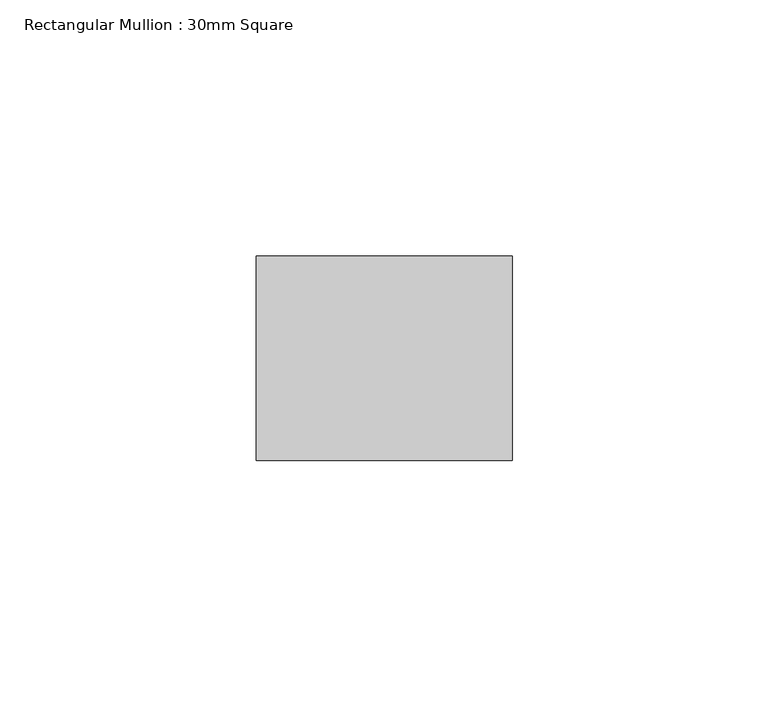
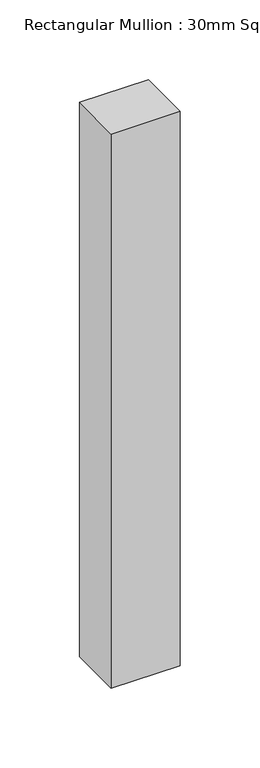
"""IFC4 building model written with IfcOpenShell, lengths in millimetres: member geometry, Rectangular Mullion : 30mm Square."""

from ifc_helpers import new_model, si_unit, frame, origin, place, context, project, spatial, polyline, outline, extrude, source, transform, mapped, element, save


def rectangular_mullion_30mm_square_f83bf9a0(model_context):
    return source(origin(), model_context, "Body", "SweptSolid", [
        extrude(outline(polyline([(25.0, 20.0), (25.0, -20.0), (-25.0, -20.0), (-25.0, 20.0), (25.0, 20.0)])), frame((0.0, 0.0, -425.0), z_axis=(0.0, 0.0, 1.0), x_axis=(1.0, 0.0, 0.0)), (0.0, 0.0, 1.0), 425.0),
    ])


if __name__ == "__main__":
    model = new_model("IFC4")
    model_context = context("Model", 3, world=origin())
    ifc_project = project(units=[si_unit("LENGTHUNIT", "METRE", prefix="MILLI")], contexts=[model_context])
    site = spatial("IfcSite", under=ifc_project)
    building = spatial("IfcBuilding", under=site)
    placement = place(None, origin())
    rectangular_mullion_30mm_square_shape = rectangular_mullion_30mm_square_f83bf9a0(model_context)
    element("IfcMember", 1, ObjectType="Rectangular Mullion : 30mm Square", at=placement, inside=building, context=model_context, shape_type="MappedRepresentation", body=[
        mapped(rectangular_mullion_30mm_square_shape, transform((0.0, 0.0, 0.0), x_axis=(1.0, 0.0, 0.0), y_axis=(0.0, 1.0, 0.0), z_axis=(0.0, 0.0, 1.0))),
    ])
    save(model, "model.ifc")
